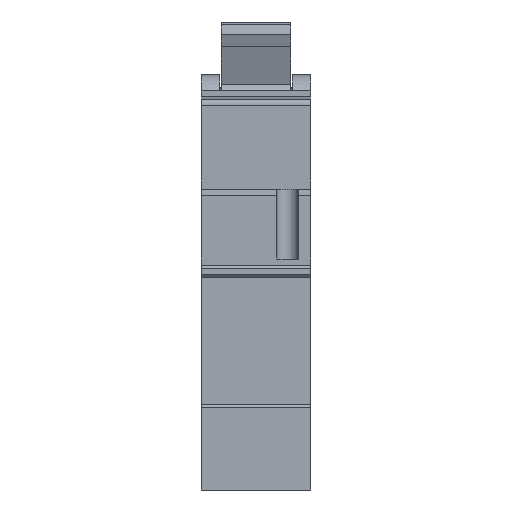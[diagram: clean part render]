
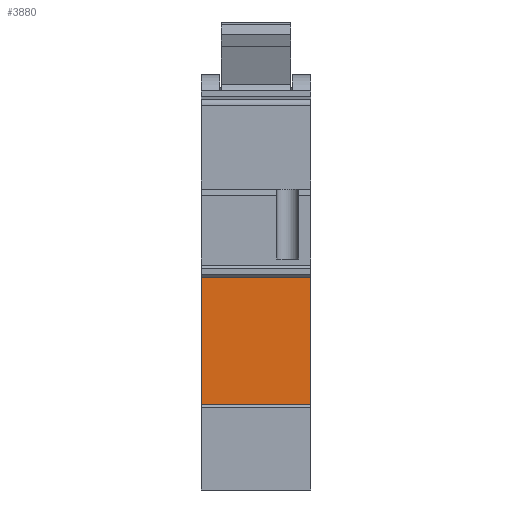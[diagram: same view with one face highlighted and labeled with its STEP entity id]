
A CAD part, front view. The second image highlights one B-rep face of the part: STEP entity #3880.
In plain terms, the highlighted planar face has unit normal (0, -1, 0).
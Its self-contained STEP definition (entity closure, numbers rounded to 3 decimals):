
#184=PLANE('',#4177);
#458=FACE_OUTER_BOUND('',#734,.T.);
#734=EDGE_LOOP('',(#3506,#3507,#3508,#3509));
#1044=LINE('',#7160,#1363);
#1121=LINE('',#7428,#1440);
#1157=LINE('',#7498,#1476);
#1158=LINE('',#7500,#1477);
#1363=VECTOR('',#4672,10.);
#1440=VECTOR('',#4917,10.);
#1476=VECTOR('',#5015,10.);
#1477=VECTOR('',#5018,10.);
#1858=VERTEX_POINT('',#7157);
#1859=VERTEX_POINT('',#7159);
#1965=VERTEX_POINT('',#7425);
#1966=VERTEX_POINT('',#7427);
#2337=EDGE_CURVE('',#1858,#1859,#1044,.T.);
#2457=EDGE_CURVE('',#1966,#1965,#1121,.T.);
#2493=EDGE_CURVE('',#1965,#1859,#1157,.T.);
#2494=EDGE_CURVE('',#1966,#1858,#1158,.T.);
#3506=ORIENTED_EDGE('',*,*,#2457,.T.);
#3507=ORIENTED_EDGE('',*,*,#2493,.T.);
#3508=ORIENTED_EDGE('',*,*,#2337,.F.);
#3509=ORIENTED_EDGE('',*,*,#2494,.F.);
#3880=ADVANCED_FACE('',(#458),#184,.T.);
#4177=AXIS2_PLACEMENT_3D('',#7499,#5016,#5017);
#4672=DIRECTION('',(0.,0.,-1.));
#4917=DIRECTION('',(0.,0.,-1.));
#5015=DIRECTION('',(1.,0.,0.));
#5016=DIRECTION('center_axis',(0.,-1.,0.));
#5017=DIRECTION('ref_axis',(0.,0.,-1.));
#5018=DIRECTION('',(1.,0.,0.));
#7157=CARTESIAN_POINT('',(18.,-38.107,23.093));
#7159=CARTESIAN_POINT('',(18.,-38.107,2.093));
#7160=CARTESIAN_POINT('',(18.,-38.107,23.093));
#7425=CARTESIAN_POINT('',(0.,-38.107,2.093));
#7427=CARTESIAN_POINT('',(0.,-38.107,23.093));
#7428=CARTESIAN_POINT('',(0.,-38.107,23.093));
#7498=CARTESIAN_POINT('',(0.,-38.107,2.093));
#7499=CARTESIAN_POINT('Origin',(0.,-38.107,23.093));
#7500=CARTESIAN_POINT('',(0.,-38.107,23.093));
